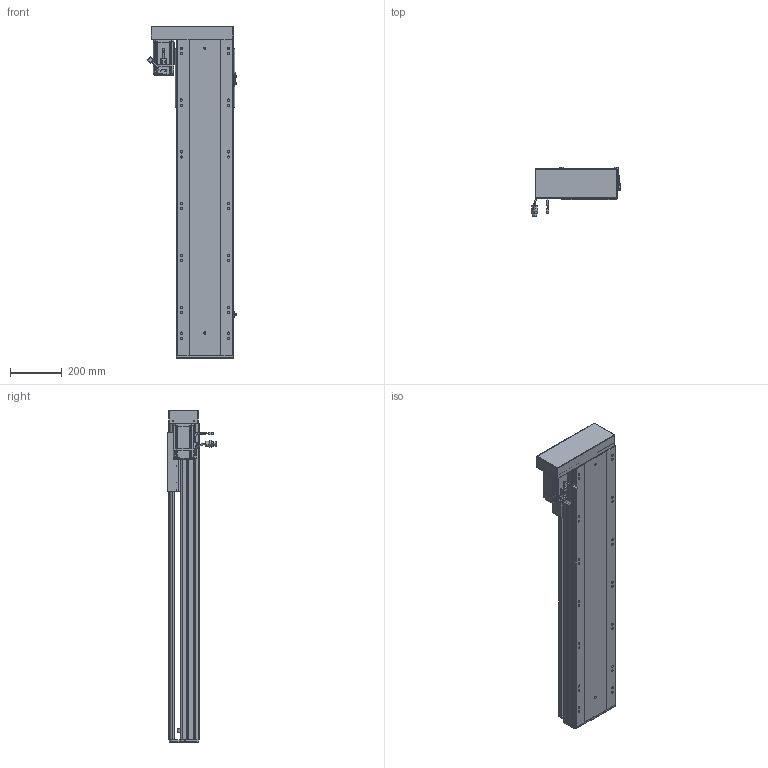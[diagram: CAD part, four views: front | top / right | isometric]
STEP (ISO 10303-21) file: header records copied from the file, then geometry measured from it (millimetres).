
FILE_DESCRIPTION (( 'STEP AP203' ), '1' );
FILE_NAME ('RY220-L2525-300-LK.SLDASM_900.step', '2022-07-04T01:46:53', ( '' ), ( '' ), 'SwSTEP 2.0', 'SolidWorks 2016', '' );
FILE_SCHEMA (( 'CONFIG_CONTROL_DESIGN' ));
Length unit declared in the file: millimetre
Products named in the file (12): 滅袉蝶18-15; RY220-俋离672覜茼んえ; 覜茼ん672; 滅袉蝶18-10; RY220半封闭25-32螺母铝滑块; RY220左右折电机安装板; RY220-300-蛌殏奻裔啣_900; RY220綴裔啣; RY220酘衵殏萇儂欶; 怢湛750W_ECMA-CX0807ES; RY220-L2525-300-LK.SLDASM_900; RY220蛌殏菁釱-300_900
Assembly tree (15 placements, depth 2):
  RY220-L2525-300-LK.SLDASM_900
    RY220蛌殏菁釱-300_900
    RY220-300-蛌殏奻裔啣_900
    怢湛750W_ECMA-CX0807ES
    滅袉蝶18-10  x2
    RY220-俋离672覜茼んえ
    覜茼ん672  x3
    RY220綴裔啣
    RY220半封闭25-32螺母铝滑块
    滅袉蝶18-15  x2
    RY220左右折电机安装板
    RY220酘衵殏萇儂欶
Bounding box: 347.44 x 189.27 x 1282 mm (x, y, z)
Volume: 10912741.4 mm3; surface area: 3166222.2 mm2
Topology: 16 solids, 16 shells, 2123 faces, 5860 edges, 3715 vertices
Faces by surface type: cylinder 951, plane 896, cone 206, bspline 44, sphere 16, torus 10
Entity records: 70189 total; most frequent: CARTESIAN_POINT 20469, ORIENTED_EDGE 10336, DIRECTION 9676, EDGE_CURVE 5168, AXIS2_PLACEMENT_3D 3389, VERTEX_POINT 3371, VECTOR 2898, LINE 2898
